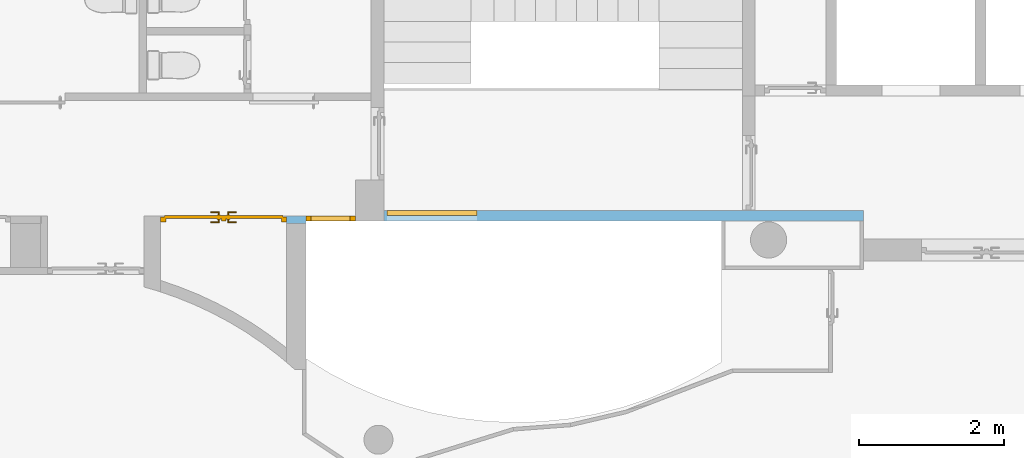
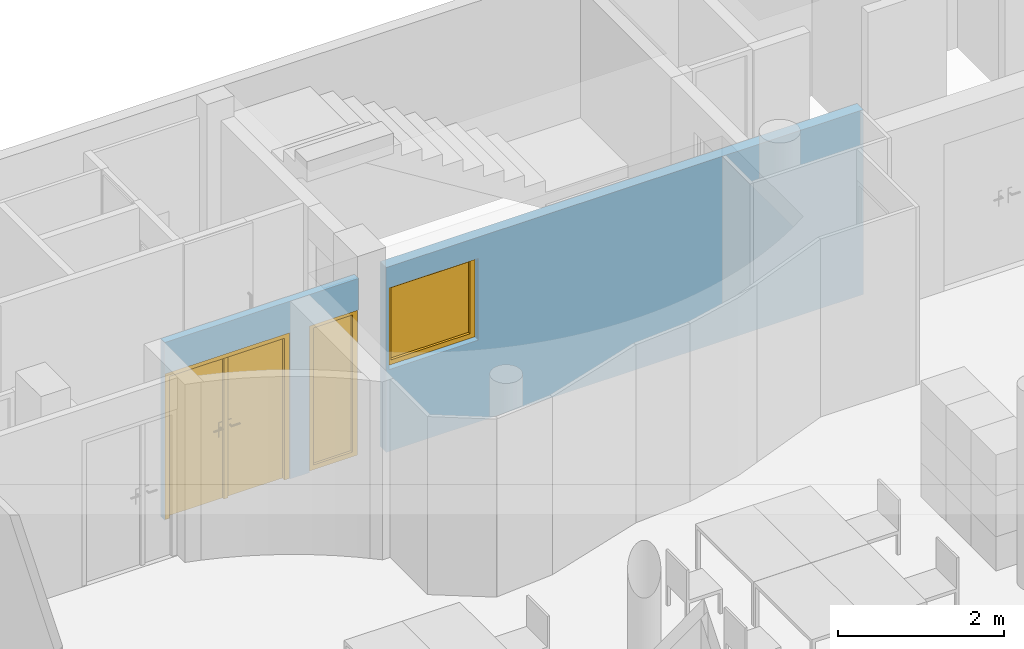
"""IFC4 building model written with IfcOpenShell, lengths in metres."""

from ifc_helpers import new_model, entity, si_unit, converted_unit, derived_unit, frame, frame_2d, origin, origin_with_axes, place, context, subcontext, project, spatial, polyline, rectangle, outline, extrude, closed_shell, open_shell, faceted_brep, surface_model, source, transform, mapped, material, layer, layer_set, layer_usage, type_object, element, fill, save


model = new_model("IFC4")

# Units and contexts
model_context = context("Model", 3, precision=1e-05, world=origin())
body_context = subcontext(model_context, "Body", "Model", "MODEL_VIEW")
ifc_project = project(units=[si_unit("LENGTHUNIT", "METRE"), si_unit("AREAUNIT", "SQUARE_METRE"), si_unit("VOLUMEUNIT", "CUBIC_METRE"), si_unit("MASSUNIT", "GRAM", prefix="KILO"), converted_unit("PLANEANGLEUNIT", "DEGREE", entity("IfcPlaneAngleMeasure", 0.0174532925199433), si_unit("PLANEANGLEUNIT", "RADIAN"), dimensions=[0, 0, 0, 0, 0, 0, 0]), derived_unit("THERMALTRANSMITTANCEUNIT", [(si_unit("POWERUNIT", "WATT"), 1), (si_unit("THERMODYNAMICTEMPERATUREUNIT", "KELVIN"), -1), (si_unit("LENGTHUNIT", "METRE"), -2)]), derived_unit("VOLUMETRICFLOWRATEUNIT", [(si_unit("LENGTHUNIT", "METRE"), 3), (converted_unit("TIMEUNIT", "hour", entity("IfcTimeMeasure", 3600.0), si_unit("TIMEUNIT", "SECOND"), dimensions=[0, 0, 1, 0, 0, 0, 0]), -1), (si_unit("LENGTHUNIT", "METRE"), -1)])], contexts=[model_context])

# Building, storeys
building_placement = place(None, origin())
building = spatial("IfcBuilding", under=ifc_project, at=building_placement, Name="HABITATGE PLURIFAMILIAR", CompositionType="ELEMENT")
storey_1_placement = place(building_placement, frame((0.0, 0.0, 12.27)))
storey_1 = spatial("IfcBuildingStorey", under=building, at=storey_1_placement, Name="PLANTA TERCERA", CompositionType="ELEMENT", Elevation=12.27)
storey_2_placement = place(storey_1_placement, frame((0.0, 0.0, 9.26)))
storey_2 = spatial("IfcBuildingStorey", under=storey_1, at=storey_2_placement, Name="NOU", CompositionType="PARTIAL")

# Wall, openings, doors
ifc_material_1 = material()
ifc_layer_1 = layer(ifc_material_1, 0.1)
ifc_layer_set_1 = layer_set([ifc_layer_1])
ifc_layer_usage_1 = layer_usage(ifc_layer_set_1, "AXIS2", "POSITIVE", 0.0)
wall_1_placement = place(storey_2_placement, frame((410.426984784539, 24.2294598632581, -9.26), z_axis=(0.0, 0.0, 1.0), x_axis=(-1.0, 0.0, 0.0)))
wall_1 = element("IfcWall", 1, at=wall_1_placement, inside=storey_2, material=ifc_layer_usage_1, Name="Evans P3", context=body_context, shape_type="SweptSolid", body=[
    extrude(rectangle(XDim=2.69000000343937, YDim=0.1, at=frame_2d((1.34500000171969, 0.05), x_axis=(1.0, 0.0))), origin_with_axes(), (0.0, 0.0, 1.0), 2.61),
])
opening_1_placement = place(wall_1_placement, frame((2.68829611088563, 0.1, 0.0), z_axis=(0.0, -1.0, 0.0), x_axis=(0.0, 0.0, 1.0)))
opening_1 = element("IfcOpeningElement", 2, at=opening_1_placement, cuts=wall_1, Name="Vano porta P3", ObjectType="Opening", context=body_context, shape_type="SweptSolid", body=[
    extrude(outline(polyline([(2.15, 1.73983265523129), (2.15, 0.0), (0.0, 0.0), (0.0, 1.73983265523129), (2.15, 1.73983265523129)])), origin_with_axes(), (0.0, 0.0, 1.0), 0.1),
])
opening_2_placement = place(wall_1_placement, frame((0.680000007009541, 0.1, 0.0), z_axis=(0.0, -1.0, 0.0), x_axis=(0.0, 0.0, 1.0)))
opening_2 = element("IfcOpeningElement", 3, at=opening_2_placement, cuts=wall_1, Name="Vano porta P3", ObjectType="Opening", context=body_context, shape_type="SweptSolid", body=[
    extrude(outline(polyline([(2.15, 0.680000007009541), (2.15, 0.0), (0.0, 0.0), (0.0, 0.680000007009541), (2.15, 0.680000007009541)])), origin_with_axes(), (0.0, 0.0, 1.0), 0.1),
])
shared_shape_1 = source(origin_with_axes(), body_context, "Body", "Brep", [
    faceted_brep([(0.0, 0.07, 2.15), (0.0, 0.07, 0.0), (0.07, 0.07, 0.0), (0.07, 0.07, 2.15), (0.0, 0.0, 0.0), (0.0, 0.0, 2.15), (0.07, 0.0, 2.15), (0.07, 0.0, 0.0)], [[[0, 1, 2, 3]], [[4, 5, 6, 7]], [[1, 0, 5, 4]], [[2, 1, 4, 7]], [[3, 2, 7, 6]], [[0, 3, 6, 5]]], orient=[[False], [False], [False], [False], [False], [False]]),
    faceted_brep([(1.66983265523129, 0.07, 2.15), (1.66983265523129, 0.07, 0.0), (1.73983265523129, 0.07, 0.0), (1.73983265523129, 0.07, 2.15), (1.66983265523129, 0.0, 0.0), (1.66983265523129, 0.0, 2.15), (1.73983265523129, 0.0, 2.15), (1.73983265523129, 0.0, 0.0)], [[[0, 1, 2, 3]], [[4, 5, 6, 7]], [[1, 0, 5, 4]], [[2, 1, 4, 7]], [[3, 2, 7, 6]], [[0, 3, 6, 5]]], orient=[[False], [False], [False], [False], [False], [False]]),
    faceted_brep([(0.07, 0.07, 2.15), (0.07, 0.07, 2.08), (1.66983265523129, 0.07, 2.08), (1.66983265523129, 0.07, 2.15), (0.07, 0.0, 2.08), (0.07, 0.0, 2.15), (1.66983265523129, 0.0, 2.15), (1.66983265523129, 0.0, 2.08)], [[[0, 1, 2, 3]], [[4, 5, 6, 7]], [[1, 0, 5, 4]], [[2, 1, 4, 7]], [[3, 2, 7, 6]], [[0, 3, 6, 5]]], orient=[[False], [False], [False], [False], [False], [False]]),
    faceted_brep([(0.05, 0.09, 2.1), (0.05, 0.09, 0.0), (0.869416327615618, 0.09, 0.0), (0.869416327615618, 0.09, 2.1), (0.05, 0.05, 0.0), (0.05, 0.05, 2.1), (0.869416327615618, 0.05, 2.1), (0.869416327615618, 0.05, 0.0)], [[[0, 1, 2, 3]], [[4, 5, 6, 7]], [[1, 0, 5, 4]], [[2, 1, 4, 7]], [[3, 2, 7, 6]], [[0, 3, 6, 5]]], orient=[[False], [False], [False], [False], [False], [False]]),
    faceted_brep([(0.839416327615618, 0.05, 2.08), (0.839416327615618, 0.05, 0.0), (0.899416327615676, 0.05, 0.0), (0.899416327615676, 0.05, 2.08), (0.839416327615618, 0.02, 0.0), (0.839416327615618, 0.02, 2.08), (0.899416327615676, 0.02, 2.08), (0.899416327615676, 0.02, 0.0)], [[[0, 1, 2, 3]], [[4, 5, 6, 7]], [[1, 0, 5, 4]], [[2, 1, 4, 7]], [[3, 2, 7, 6]], [[0, 3, 6, 5]]], orient=[[False], [False], [False], [False], [False], [False]]),
    faceted_brep([(0.779416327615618, 0.05, 1.125), (0.779416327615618, 0.05, 0.91), (0.829416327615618, 0.05, 0.91), (0.829416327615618, 0.05, 1.125), (0.779416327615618, 0.04, 0.91), (0.779416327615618, 0.04, 1.125), (0.829416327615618, 0.04, 1.125), (0.829416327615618, 0.04, 0.91)], [[[0, 1, 2, 3]], [[4, 5, 6, 7]], [[1, 0, 5, 4]], [[2, 1, 4, 7]], [[3, 2, 7, 6]], [[0, 3, 6, 5]]], orient=[[False], [False], [False], [False], [False], [False]]),
    faceted_brep([(0.804416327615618, 0.04, 1.06), (0.799416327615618, 0.04, 1.05866025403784), (0.795756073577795, 0.04, 1.055), (0.794416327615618, 0.04, 1.05), (0.795756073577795, 0.04, 1.045), (0.799416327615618, 0.04, 1.04133974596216), (0.804416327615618, 0.04, 1.04), (0.809416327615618, 0.04, 1.04133974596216), (0.813076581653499, 0.04, 1.045), (0.814416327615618, 0.04, 1.05), (0.813076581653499, 0.04, 1.055), (0.809416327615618, 0.04, 1.05866025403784), (0.809416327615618, -0.005, 1.05866025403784), (0.804416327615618, 0.0, 1.06), (0.813076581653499, -0.00866025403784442, 1.055), (0.814416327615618, -0.01, 1.05), (0.813076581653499, -0.00866025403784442, 1.045), (0.809416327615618, -0.005, 1.04133974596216), (0.804416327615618, 0.0, 1.04), (0.799416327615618, 0.005, 1.04133974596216), (0.795756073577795, 0.00866025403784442, 1.045), (0.794416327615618, 0.01, 1.05), (0.795756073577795, 0.00866025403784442, 1.055), (0.799416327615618, 0.005, 1.05866025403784), (0.689416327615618, 0.0, 1.06), (0.689416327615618, -0.005, 1.05866025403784), (0.689416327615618, -0.00866025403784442, 1.055), (0.689416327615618, -0.01, 1.05), (0.689416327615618, -0.00866025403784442, 1.045), (0.689416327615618, -0.005, 1.04133974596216), (0.689416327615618, 0.0, 1.04), (0.689416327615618, 0.005, 1.04133974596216), (0.689416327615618, 0.00866025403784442, 1.045), (0.689416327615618, 0.01, 1.05), (0.689416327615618, 0.00866025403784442, 1.055), (0.689416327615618, 0.005, 1.05866025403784)], [[[0, 1, 2, 3, 4, 5, 6, 7, 8, 9, 10, 11]], [[0, 11, 12, 13]], [[11, 10, 14, 12]], [[10, 9, 15, 14]], [[9, 8, 16, 15]], [[8, 7, 17, 16]], [[7, 6, 18, 17]], [[6, 5, 19, 18]], [[5, 4, 20, 19]], [[4, 3, 21, 20]], [[3, 2, 22, 21]], [[2, 1, 23, 22]], [[1, 0, 13, 23]], [[24, 25, 26, 27, 28, 29, 30, 31, 32, 33, 34, 35]], [[13, 12, 25, 24]], [[12, 14, 26, 25]], [[14, 15, 27, 26]], [[15, 16, 28, 27]], [[16, 17, 29, 28]], [[17, 18, 30, 29]], [[18, 19, 31, 30]], [[19, 20, 32, 31]], [[20, 21, 33, 32]], [[21, 22, 34, 33]], [[22, 23, 35, 34]], [[23, 13, 24, 35]]], orient=[[False], [False], [False], [False], [False], [False], [False], [False], [False], [False], [False], [False], [False], [False], [False], [False], [False], [False], [False], [False], [False], [False], [False], [False], [False], [False]]),
    faceted_brep([(0.779416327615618, 0.09, 1.125), (0.829416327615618, 0.09, 1.125), (0.829416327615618, 0.09, 0.91), (0.779416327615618, 0.09, 0.91), (0.779416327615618, 0.1, 0.91), (0.829416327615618, 0.1, 0.91), (0.829416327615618, 0.1, 1.125), (0.779416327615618, 0.1, 1.125)], [[[0, 1, 2, 3]], [[4, 5, 6, 7]], [[3, 4, 7, 0]], [[2, 5, 4, 3]], [[1, 6, 5, 2]], [[0, 7, 6, 1]]], orient=[[False], [False], [False], [False], [False], [False]]),
    faceted_brep([(0.804416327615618, 0.1, 1.06), (0.809416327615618, 0.1, 1.05866025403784), (0.813076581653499, 0.1, 1.055), (0.814416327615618, 0.1, 1.05), (0.813076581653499, 0.1, 1.045), (0.809416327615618, 0.1, 1.04133974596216), (0.804416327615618, 0.1, 1.04), (0.799416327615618, 0.1, 1.04133974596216), (0.795756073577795, 0.1, 1.045), (0.794416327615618, 0.1, 1.05), (0.795756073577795, 0.1, 1.055), (0.799416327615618, 0.1, 1.05866025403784), (0.804416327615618, 0.14, 1.06), (0.809416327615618, 0.145, 1.05866025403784), (0.813076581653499, 0.148660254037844, 1.055), (0.814416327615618, 0.15, 1.05), (0.813076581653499, 0.148660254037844, 1.045), (0.809416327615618, 0.145, 1.04133974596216), (0.804416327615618, 0.14, 1.04), (0.799416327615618, 0.135, 1.04133974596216), (0.795756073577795, 0.131339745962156, 1.045), (0.794416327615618, 0.13, 1.05), (0.795756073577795, 0.131339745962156, 1.055), (0.799416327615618, 0.135, 1.05866025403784), (0.689416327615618, 0.14, 1.06), (0.689416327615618, 0.135, 1.05866025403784), (0.689416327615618, 0.131339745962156, 1.055), (0.689416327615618, 0.13, 1.05), (0.689416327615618, 0.131339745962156, 1.045), (0.689416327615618, 0.135, 1.04133974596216), (0.689416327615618, 0.14, 1.04), (0.689416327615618, 0.145, 1.04133974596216), (0.689416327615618, 0.148660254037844, 1.045), (0.689416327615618, 0.15, 1.05), (0.689416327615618, 0.148660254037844, 1.055), (0.689416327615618, 0.145, 1.05866025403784)], [[[0, 1, 2, 3, 4, 5, 6, 7, 8, 9, 10, 11]], [[0, 12, 13, 1]], [[1, 13, 14, 2]], [[2, 14, 15, 3]], [[3, 15, 16, 4]], [[4, 16, 17, 5]], [[5, 17, 18, 6]], [[6, 18, 19, 7]], [[7, 19, 20, 8]], [[8, 20, 21, 9]], [[9, 21, 22, 10]], [[10, 22, 23, 11]], [[11, 23, 12, 0]], [[24, 25, 26, 27, 28, 29, 30, 31, 32, 33, 34, 35]], [[12, 24, 35, 13]], [[13, 35, 34, 14]], [[14, 34, 33, 15]], [[15, 33, 32, 16]], [[16, 32, 31, 17]], [[17, 31, 30, 18]], [[18, 30, 29, 19]], [[19, 29, 28, 20]], [[20, 28, 27, 21]], [[21, 27, 26, 22]], [[22, 26, 25, 23]], [[23, 25, 24, 12]]], orient=[[False], [False], [False], [False], [False], [False], [False], [False], [False], [False], [False], [False], [False], [False], [False], [False], [False], [False], [False], [False], [False], [False], [False], [False], [False], [False]]),
    faceted_brep([(0.870416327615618, 0.09, 2.1), (0.870416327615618, 0.09, 0.0), (1.68983265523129, 0.09, 0.0), (1.68983265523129, 0.09, 2.1), (0.870416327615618, 0.05, 0.0), (0.870416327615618, 0.05, 2.1), (1.68983265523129, 0.05, 2.1), (1.68983265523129, 0.05, 0.0)], [[[0, 1, 2, 3]], [[4, 5, 6, 7]], [[1, 0, 5, 4]], [[2, 1, 4, 7]], [[3, 2, 7, 6]], [[0, 3, 6, 5]]], orient=[[False], [False], [False], [False], [False], [False]]),
    faceted_brep([(0.910416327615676, 0.05, 1.125), (0.910416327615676, 0.05, 0.91), (0.960416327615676, 0.05, 0.91), (0.960416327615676, 0.05, 1.125), (0.910416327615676, 0.04, 0.91), (0.910416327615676, 0.04, 1.125), (0.960416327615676, 0.04, 1.125), (0.960416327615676, 0.04, 0.91)], [[[0, 1, 2, 3]], [[4, 5, 6, 7]], [[1, 0, 5, 4]], [[2, 1, 4, 7]], [[3, 2, 7, 6]], [[0, 3, 6, 5]]], orient=[[False], [False], [False], [False], [False], [False]]),
    faceted_brep([(0.935416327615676, 0.04, 1.06), (0.930416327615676, 0.04, 1.05866025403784), (0.926756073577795, 0.04, 1.055), (0.925416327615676, 0.04, 1.05), (0.926756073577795, 0.04, 1.045), (0.930416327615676, 0.04, 1.04133974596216), (0.935416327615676, 0.04, 1.04), (0.940416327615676, 0.04, 1.04133974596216), (0.944076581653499, 0.04, 1.045), (0.945416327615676, 0.04, 1.05), (0.944076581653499, 0.04, 1.055), (0.940416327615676, 0.04, 1.05866025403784), (0.935416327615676, 0.0, 1.06), (0.930416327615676, -0.005, 1.05866025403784), (0.926756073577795, -0.00866025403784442, 1.055), (0.925416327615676, -0.01, 1.05), (0.926756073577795, -0.00866025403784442, 1.045), (0.930416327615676, -0.005, 1.04133974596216), (0.935416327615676, 0.0, 1.04), (0.940416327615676, 0.005, 1.04133974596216), (0.944076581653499, 0.00866025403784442, 1.045), (0.945416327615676, 0.01, 1.05), (0.944076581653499, 0.00866025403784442, 1.055), (0.940416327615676, 0.005, 1.05866025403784), (1.05041632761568, 0.0, 1.06), (1.05041632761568, 0.005, 1.05866025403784), (1.05041632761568, 0.00866025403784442, 1.055), (1.05041632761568, 0.01, 1.05), (1.05041632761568, 0.00866025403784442, 1.045), (1.05041632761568, 0.005, 1.04133974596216), (1.05041632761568, 0.0, 1.04), (1.05041632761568, -0.005, 1.04133974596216), (1.05041632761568, -0.00866025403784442, 1.045), (1.05041632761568, -0.01, 1.05), (1.05041632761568, -0.00866025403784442, 1.055), (1.05041632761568, -0.005, 1.05866025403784)], [[[0, 1, 2, 3, 4, 5, 6, 7, 8, 9, 10, 11]], [[0, 12, 13, 1]], [[1, 13, 14, 2]], [[2, 14, 15, 3]], [[3, 15, 16, 4]], [[4, 16, 17, 5]], [[5, 17, 18, 6]], [[6, 18, 19, 7]], [[7, 19, 20, 8]], [[8, 20, 21, 9]], [[9, 21, 22, 10]], [[10, 22, 23, 11]], [[11, 23, 12, 0]], [[24, 25, 26, 27, 28, 29, 30, 31, 32, 33, 34, 35]], [[12, 24, 35, 13]], [[13, 35, 34, 14]], [[14, 34, 33, 15]], [[15, 33, 32, 16]], [[16, 32, 31, 17]], [[17, 31, 30, 18]], [[18, 30, 29, 19]], [[19, 29, 28, 20]], [[20, 28, 27, 21]], [[21, 27, 26, 22]], [[22, 26, 25, 23]], [[23, 25, 24, 12]]], orient=[[False], [False], [False], [False], [False], [False], [False], [False], [False], [False], [False], [False], [False], [False], [False], [False], [False], [False], [False], [False], [False], [False], [False], [False], [False], [False]]),
    faceted_brep([(0.910416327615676, 0.09, 1.125), (0.960416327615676, 0.09, 1.125), (0.960416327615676, 0.09, 0.91), (0.910416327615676, 0.09, 0.91), (0.910416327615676, 0.1, 0.91), (0.960416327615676, 0.1, 0.91), (0.960416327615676, 0.1, 1.125), (0.910416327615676, 0.1, 1.125)], [[[0, 1, 2, 3]], [[4, 5, 6, 7]], [[3, 4, 7, 0]], [[2, 5, 4, 3]], [[1, 6, 5, 2]], [[0, 7, 6, 1]]], orient=[[False], [False], [False], [False], [False], [False]]),
    faceted_brep([(0.935416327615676, 0.1, 1.06), (0.940416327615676, 0.1, 1.05866025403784), (0.944076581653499, 0.1, 1.055), (0.945416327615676, 0.1, 1.05), (0.944076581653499, 0.1, 1.045), (0.940416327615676, 0.1, 1.04133974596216), (0.935416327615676, 0.1, 1.04), (0.930416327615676, 0.1, 1.04133974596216), (0.926756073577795, 0.1, 1.045), (0.925416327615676, 0.1, 1.05), (0.926756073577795, 0.1, 1.055), (0.930416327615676, 0.1, 1.05866025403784), (0.930416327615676, 0.145, 1.05866025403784), (0.935416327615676, 0.14, 1.06), (0.926756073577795, 0.148660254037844, 1.055), (0.925416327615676, 0.15, 1.05), (0.926756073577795, 0.148660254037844, 1.045), (0.930416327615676, 0.145, 1.04133974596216), (0.935416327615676, 0.14, 1.04), (0.940416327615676, 0.135, 1.04133974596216), (0.944076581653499, 0.131339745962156, 1.045), (0.945416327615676, 0.13, 1.05), (0.944076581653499, 0.131339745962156, 1.055), (0.940416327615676, 0.135, 1.05866025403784), (1.05041632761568, 0.14, 1.06), (1.05041632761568, 0.145, 1.05866025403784), (1.05041632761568, 0.148660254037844, 1.055), (1.05041632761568, 0.15, 1.05), (1.05041632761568, 0.148660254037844, 1.045), (1.05041632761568, 0.145, 1.04133974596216), (1.05041632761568, 0.14, 1.04), (1.05041632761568, 0.135, 1.04133974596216), (1.05041632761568, 0.131339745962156, 1.045), (1.05041632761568, 0.13, 1.05), (1.05041632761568, 0.131339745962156, 1.055), (1.05041632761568, 0.135, 1.05866025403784)], [[[0, 1, 2, 3, 4, 5, 6, 7, 8, 9, 10, 11]], [[0, 11, 12, 13]], [[11, 10, 14, 12]], [[10, 9, 15, 14]], [[9, 8, 16, 15]], [[8, 7, 17, 16]], [[7, 6, 18, 17]], [[6, 5, 19, 18]], [[5, 4, 20, 19]], [[4, 3, 21, 20]], [[3, 2, 22, 21]], [[2, 1, 23, 22]], [[1, 0, 13, 23]], [[24, 25, 26, 27, 28, 29, 30, 31, 32, 33, 34, 35]], [[13, 12, 25, 24]], [[12, 14, 26, 25]], [[14, 15, 27, 26]], [[15, 16, 28, 27]], [[16, 17, 29, 28]], [[17, 18, 30, 29]], [[18, 19, 31, 30]], [[19, 20, 32, 31]], [[20, 21, 33, 32]], [[21, 22, 34, 33]], [[22, 23, 35, 34]], [[23, 13, 24, 35]]], orient=[[False], [False], [False], [False], [False], [False], [False], [False], [False], [False], [False], [False], [False], [False], [False], [False], [False], [False], [False], [False], [False], [False], [False], [False], [False], [False]]),
])
door_1_placement = place(opening_1_placement, frame((0.0, 0.0, 0.015), z_axis=(1.0, 0.0, 0.0), x_axis=(0.0, 1.0, 0.0)))
door_1 = element("IfcDoor", 4, at=door_1_placement, inside=storey_2, Name="Porta P3", OperationType="USERDEFINED", OverallHeight=2.15, OverallWidth=1.73983, PredefinedType="DOOR", context=body_context, shape_type="MappedRepresentation", body=[
    mapped(shared_shape_1, transform((0.0, 0.0, 0.0), x_axis=(1.0, 0.0, 0.0), y_axis=(0.0, 1.0, 0.0), z_axis=(0.0, 0.0, 1.0), scale=1.0)),
])
fill(opening_1, door_1)
door_type = type_object("IfcDoorType", Name="Porta P3", OperationType="NOTDEFINED", ParameterTakesPrecedence=False, PredefinedType="DOOR")
shared_shape_2 = source(origin_with_axes(), body_context, "Body", "SurfaceModel", [
    surface_model("IfcShellBasedSurfaceModel", [(0.0, 0.0700000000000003, 2.15), (0.0, 0.07, 0.0), (0.07, 0.07, 0.0), (0.07, 0.0700000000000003, 2.15), (0.0, 0.0, 0.0), (0.0, 0.0, 2.15), (0.07, 0.0, 2.15), (0.07, 0.0, 0.0)], [closed_shell([[[0, 1, 2, 3]], [[4, 5, 6, 7]], [[1, 0, 5, 4]], [[2, 1, 4, 7]], [[3, 2, 7, 6]], [[0, 3, 6, 5]]], orient=[[False], [False], [False], [False], [False], [False]])]),
    surface_model("IfcShellBasedSurfaceModel", [(0.61000000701, 0.0700000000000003, 2.15), (0.61000000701, 0.07, 0.0), (0.68000000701, 0.07, 0.0), (0.68000000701, 0.0700000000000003, 2.15), (0.61000000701, 0.0, 0.0), (0.61000000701, 0.0, 2.15), (0.68000000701, 0.0, 2.15), (0.68000000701, 0.0, 0.0)], [closed_shell([[[0, 1, 2, 3]], [[4, 5, 6, 7]], [[1, 0, 5, 4]], [[2, 1, 4, 7]], [[3, 2, 7, 6]], [[0, 3, 6, 5]]], orient=[[False], [False], [False], [False], [False], [False]])]),
    surface_model("IfcShellBasedSurfaceModel", [(0.07, 0.07, 0.07), (0.07, 0.07, 0.0), (0.61000000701, 0.07, 0.0), (0.61000000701, 0.07, 0.07), (0.07, 0.0, 0.0), (0.07, 0.0, 0.07), (0.61000000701, 0.0, 0.07), (0.61000000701, 0.0, 0.0)], [closed_shell([[[0, 1, 2, 3]], [[4, 5, 6, 7]], [[1, 0, 5, 4]], [[2, 1, 4, 7]], [[3, 2, 7, 6]], [[0, 3, 6, 5]]], orient=[[False], [False], [False], [False], [False], [False]])]),
    surface_model("IfcShellBasedSurfaceModel", [(0.07, 0.0700000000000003, 2.15), (0.07, 0.0700000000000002, 2.08), (0.61000000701, 0.0700000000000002, 2.08), (0.61000000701, 0.0700000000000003, 2.15), (0.07, 0.0, 2.08), (0.07, 0.0, 2.15), (0.61000000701, 0.0, 2.15), (0.61000000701, 0.0, 2.08)], [closed_shell([[[0, 1, 2, 3]], [[4, 5, 6, 7]], [[1, 0, 5, 4]], [[2, 1, 4, 7]], [[3, 2, 7, 6]], [[0, 3, 6, 5]]], orient=[[False], [False], [False], [False], [False], [False]])]),
    surface_model("IfcShellBasedSurfaceModel", [(0.07, 0.035, 0.07), (0.61000000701, 0.035, 0.07), (0.61000000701, 0.0350000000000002, 2.08), (0.07, 0.0350000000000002, 2.08)], [open_shell([[[0, 1, 2, 3]]], orient=[[False]])]),
])
door_2_placement = place(opening_2_placement, frame((0.0, 0.680000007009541, 0.03), z_axis=(1.0, 0.0, 0.0), x_axis=(0.0, -0.999999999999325, 0.0)))
door_2 = element("IfcDoor", 5, at=door_2_placement, inside=storey_2, type_object=door_type, Name="Porta P3", OverallHeight=2.15, OverallWidth=0.68, context=body_context, shape_type="MappedRepresentation", body=[
    mapped(shared_shape_2, transform((0.0, 0.0, 0.0), x_axis=(1.0, 0.0, 0.0), y_axis=(0.0, -1.0, 0.0), z_axis=(0.0, 0.0, 1.0), scale=0.999999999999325)),
])
fill(opening_2, door_2)

# Wall, opening, window
ifc_material_2 = material()
ifc_layer_2 = layer(ifc_material_2, 0.15)
ifc_layer_set_2 = layer_set([ifc_layer_2])
ifc_layer_usage_2 = layer_usage(ifc_layer_set_2, "AXIS2", "POSITIVE", 0.0)
wall_2_placement = place(storey_2_placement, frame((417.446984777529, 24.3094598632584, -9.36), z_axis=(0.0, 0.0, 1.0), x_axis=(-1.0, 0.0, 0.0)))
wall_2 = element("IfcWall", 6, at=wall_2_placement, inside=storey_2, material=ifc_layer_usage_2, Name="Evans P3", context=body_context, shape_type="SweptSolid", body=[
    extrude(rectangle(XDim=6.61999999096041, YDim=0.15, at=frame_2d((3.3099999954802, 0.075), x_axis=(1.0, 0.0))), origin_with_axes(), (0.0, 0.0, 1.0), 2.71),
])
opening_3_placement = place(wall_2_placement, frame((6.58000000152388, 0.149999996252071, 1.2), z_axis=(0.0, -1.0, 0.0), x_axis=(0.0, 0.0, 1.0)))
opening_3 = element("IfcOpeningElement", 7, at=opening_3_placement, cuts=wall_2, Name="Vano de Finestra P3", ObjectType="Opening", context=body_context, shape_type="SweptSolid", body=[
    extrude(outline(polyline([(1.2, 1.24), (1.2, 0.0), (0.0, 0.0), (0.0, 1.24), (1.2, 1.24)])), origin_with_axes(), (0.0, 0.0, 1.0), 0.15),
])
shared_shape_3 = source(origin_with_axes(), body_context, "Body", "SurfaceModel", [
    surface_model("IfcShellBasedSurfaceModel", [(1.24, 0.0, 1.2), (1.24, 0.0, 0.0), (1.17, 0.0, 0.0), (1.17, 0.0, 1.2), (1.24, 0.07, 0.0), (1.24, 0.07, 1.2), (1.17, 0.07, 1.2), (1.17, 0.07, 0.0)], [closed_shell([[[0, 1, 2, 3]], [[4, 5, 6, 7]], [[1, 0, 5, 4]], [[2, 1, 4, 7]], [[3, 2, 7, 6]], [[0, 3, 6, 5]]], orient=[[False], [False], [False], [False], [False], [False]])]),
    surface_model("IfcShellBasedSurfaceModel", [(0.07, 0.0, 1.2), (0.07, 0.0, 0.0), (0.0, 0.0, 0.0), (0.0, 0.0, 1.2), (0.07, 0.07, 0.0), (0.07, 0.07, 1.2), (0.0, 0.07, 1.2), (0.0, 0.07, 0.0)], [closed_shell([[[0, 1, 2, 3]], [[4, 5, 6, 7]], [[1, 0, 5, 4]], [[2, 1, 4, 7]], [[3, 2, 7, 6]], [[0, 3, 6, 5]]], orient=[[False], [False], [False], [False], [False], [False]])]),
    surface_model("IfcShellBasedSurfaceModel", [(1.17, 0.0, 0.07), (1.17, 0.0, 0.0), (0.07, 0.0, 0.0), (0.07, 0.0, 0.07), (1.17, 0.07, 0.0), (1.17, 0.07, 0.07), (0.07, 0.07, 0.07), (0.07, 0.07, 0.0)], [closed_shell([[[0, 1, 2, 3]], [[4, 5, 6, 7]], [[1, 0, 5, 4]], [[2, 1, 4, 7]], [[3, 2, 7, 6]], [[0, 3, 6, 5]]], orient=[[False], [False], [False], [False], [False], [False]])]),
    surface_model("IfcShellBasedSurfaceModel", [(1.17, 0.0, 1.2), (1.17, 0.0, 1.13), (0.07, 0.0, 1.13), (0.07, 0.0, 1.2), (1.17, 0.07, 1.13), (1.17, 0.07, 1.2), (0.07, 0.07, 1.2), (0.07, 0.07, 1.13)], [closed_shell([[[0, 1, 2, 3]], [[4, 5, 6, 7]], [[1, 0, 5, 4]], [[2, 1, 4, 7]], [[3, 2, 7, 6]], [[0, 3, 6, 5]]], orient=[[False], [False], [False], [False], [False], [False]])]),
    surface_model("IfcShellBasedSurfaceModel", [(1.17, 0.035, 0.07), (0.07, 0.035, 0.07), (0.07, 0.035, 1.13), (1.17, 0.035, 1.13)], [open_shell([[[0, 1, 2, 3]]], orient=[[False]])]),
])
window_placement = place(opening_3_placement, frame((0.0, 1.24, 0.15), z_axis=(1.0, 0.0, 0.0), x_axis=(0.0, -1.0, 0.0)))
window = element("IfcWindow", 8, at=window_placement, inside=storey_2, Name="Finestra P1", OverallHeight=1.2, OverallWidth=1.24, PartitioningType="USERDEFINED", PredefinedType="WINDOW", context=body_context, shape_type="MappedRepresentation", body=[
    mapped(shared_shape_3, transform((0.0, 0.0, 0.0), x_axis=(1.0, 0.0, 0.0), y_axis=(0.0, 1.0, 0.0), z_axis=(0.0, 0.0, 1.0), scale=1.0)),
])
fill(opening_3, window)

save(model, "model.ifc")
